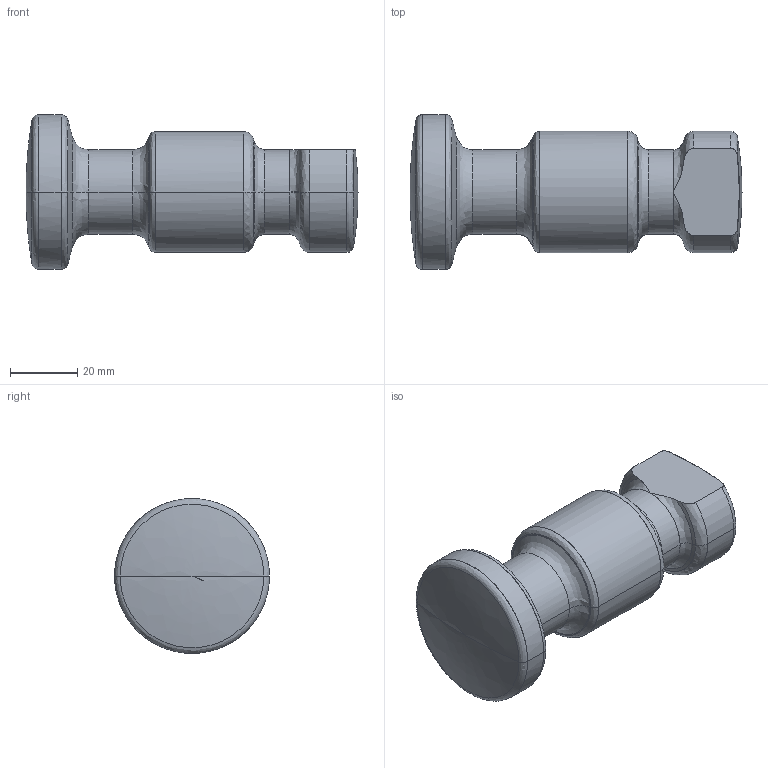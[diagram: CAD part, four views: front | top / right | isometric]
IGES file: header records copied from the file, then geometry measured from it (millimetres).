
Global section: file name: E:\UnigraphicsGraphicData\MISUMI_PRESS-PARTS\IGES\3d_chf25_03513_r00.igs; native system: NX V5.0; preprocessor: UGS NX IGES V5.0; author: MISUMI; date: 20110105.160215; units: millimetre
Bounding box: 98.6 x 46 x 45.96 mm (x, y, z)
Surface area: 13799 mm2 (no closed solid volume)
Topology: 0 solids, 0 shells, 48 faces, 214 edges, 210 vertices
Faces by surface type: bspline 48
